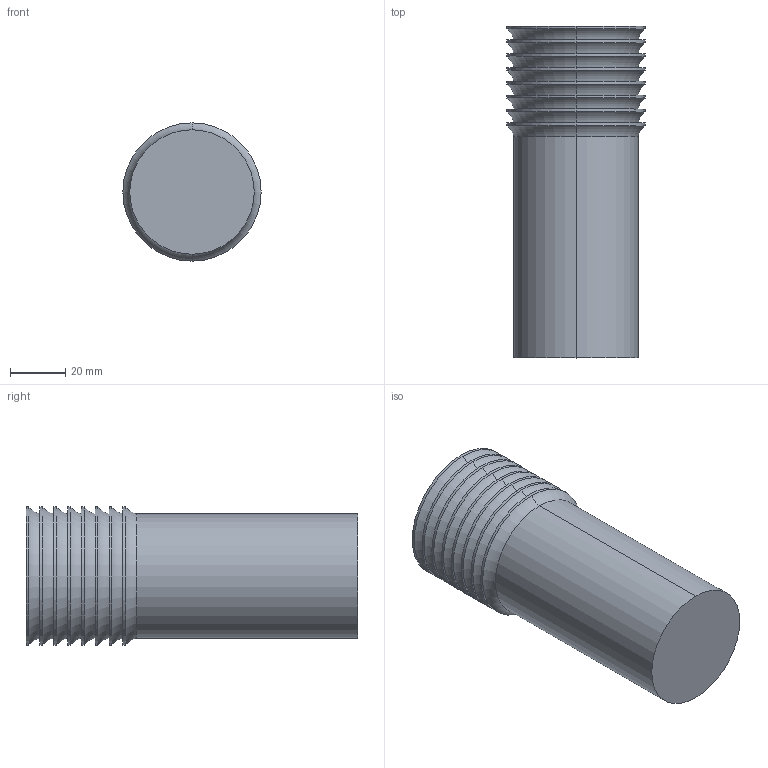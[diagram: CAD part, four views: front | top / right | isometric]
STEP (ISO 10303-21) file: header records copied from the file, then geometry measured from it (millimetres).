
FILE_DESCRIPTION (( 'STEP AP214' ), '1' );
FILE_NAME ('T0337.STEP', '2026-08-28T09:43:13', ( '' ), ( '' ), 'SwSTEP 2.0', 'SolidWorks 2023', '' );
FILE_SCHEMA (( 'AUTOMOTIVE_DESIGN' ));
Length unit declared in the file: millimetre
Products named in the file (1): T0337
Bounding box: 50 x 120 x 50 mm (x, y, z)
Volume: 196764 mm3; surface area: 27648.4 mm2
Topology: 2 solids, 2 shells, 48 faces, 92 edges, 56 vertices
Faces by surface type: cylinder 18, torus 18, plane 12
Entity records: 1274 total; most frequent: DIRECTION 264, CARTESIAN_POINT 197, ORIENTED_EDGE 184, AXIS2_PLACEMENT_3D 123, EDGE_CURVE 92, CIRCLE 74, EDGE_LOOP 56, VERTEX_POINT 56
